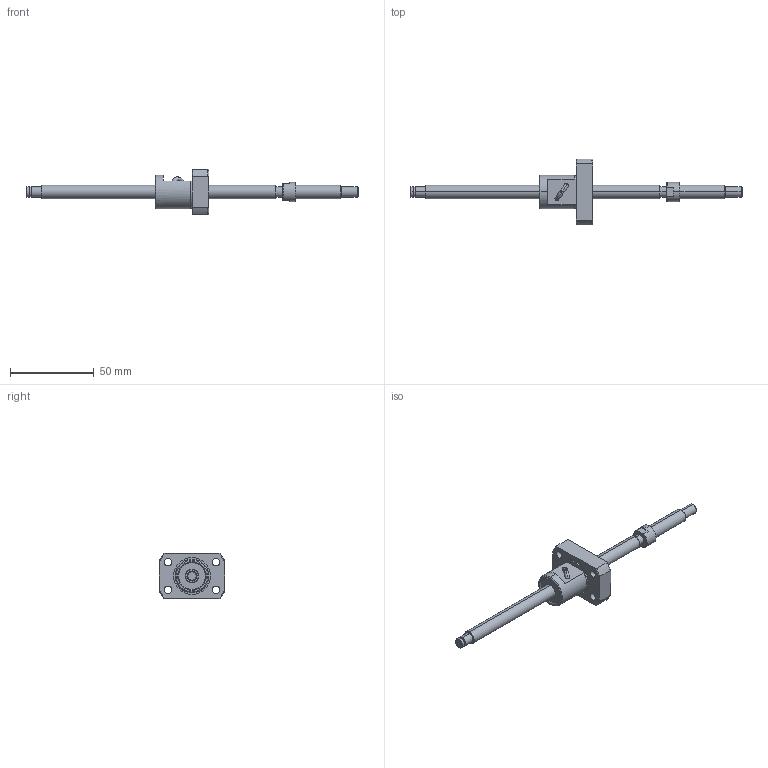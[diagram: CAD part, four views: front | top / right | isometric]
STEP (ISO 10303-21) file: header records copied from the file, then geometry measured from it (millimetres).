
FILE_DESCRIPTION (( 'STEP AP214' ), '1' );
FILE_NAME ('BS0802A-3D.STEP', '2014-03-07T15:47:44', ( '' ), ( '' ), 'SwSTEP 2.0', 'SolidWorks 2012', '' );
FILE_SCHEMA (( 'AUTOMOTIVE_DESIGN' ));
Length unit declared in the file: millimetre
Products named in the file (3): BS0802AŽ²; BS0802Aナット; BS0802A-3D
Assembly tree (2 placements, depth 2):
  BS0802A-3D
    BS0802Aナット
    BS0802AŽ²
Bounding box: 198 x 39 x 27 mm (x, y, z)
Volume: 22961 mm3; surface area: 12895.1 mm2
Topology: 5 solids, 5 shells, 161 faces, 402 edges, 261 vertices
Faces by surface type: cylinder 76, plane 45, cone 34, torus 4, bspline 2
Entity records: 6201 total; most frequent: CARTESIAN_POINT 2083, DIRECTION 858, ORIENTED_EDGE 800, EDGE_CURVE 400, AXIS2_PLACEMENT_3D 360, VERTEX_POINT 261, EDGE_LOOP 197, CIRCLE 196
